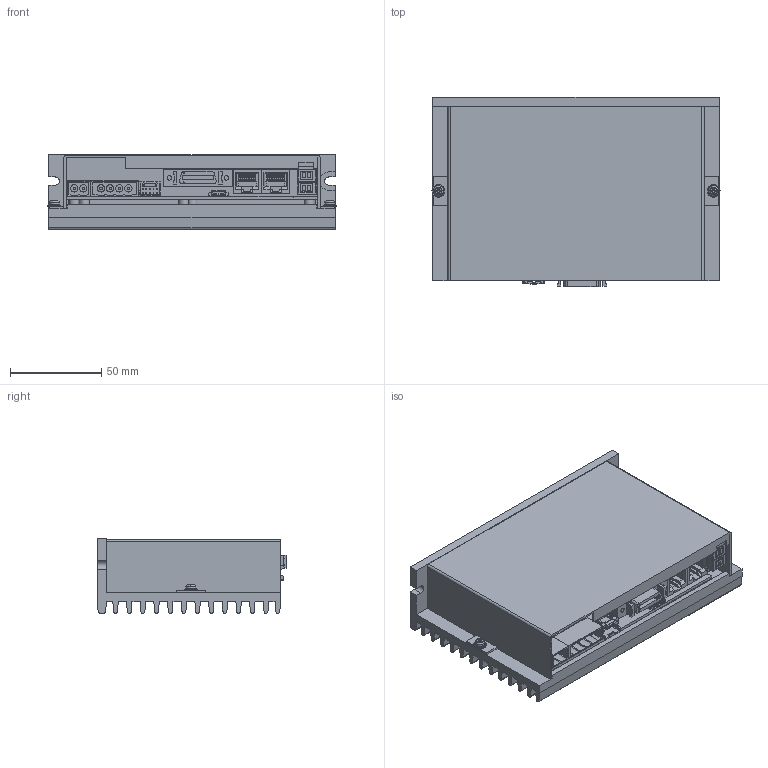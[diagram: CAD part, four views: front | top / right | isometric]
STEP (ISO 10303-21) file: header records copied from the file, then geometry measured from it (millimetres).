
FILE_DESCRIPTION (( 'STEP AP203' ), '1' );
FILE_NAME ('P1C-DR-086-01-R00.STEP', '2017-04-26T02:28:58', ( '' ), ( '' ), 'SwSTEP 2.0', 'SolidWorks 2013', '' );
FILE_SCHEMA (( 'CONFIG_CONTROL_DESIGN' ));
Length unit declared in the file: millimetre
Products named in the file (21): spring lock washer_ks_KS 1324 - M3; 5; 萄塭檜粽 瞪錳 鐘喀攪 86; plain washer normal grade a_iso_Washer ISO 7089 - 3; _X2_D30CD2B8_X0_96; 賅攪 醞啗 鐘喀攪 86; P1C-DR-086-01-R00; _X2_D30CD2B8_X0_94; 浚内歹 立加 目池磐; 12; 9; MOLEX_0678038020; EtherCAT PCB; 萄塭檜粽 瞪錳 鐘喀攪 б 86; 4; M1B-DR-086-01-R01; Part1_4; NetBase PCB; pan cross head_ks_KS 1023 PC- M3 x 6-N; 7; M1C-DR-086-02-R00
Assembly tree (31 placements, depth 3):
  P1C-DR-086-01-R00
    NetBase PCB
    M1C-DR-086-02-R00
    萄塭檜粽 瞪錳 鐘喀攪 86
    賅攪 醞啗 鐘喀攪 86
    浚内歹 立加 目池磐
    9
    EtherCAT PCB
    4
    7  x2
      Part1_4
    5  x2
    12  x2
      _X2_D30CD2B8_X0_96
      _X2_D30CD2B8_X0_94
    MOLEX_0678038020
    萄塭檜粽 瞪錳 鐘喀攪 б 86  x6
    M1B-DR-086-01-R01
    pan cross head_ks_KS 1023 PC- M3 x 6-N  x2
    spring lock washer_ks_KS 1324 - M3  x2
    plain washer normal grade a_iso_Washer ISO 7089 - 3  x2
Bounding box: 158 x 103.86 x 41 mm (x, y, z)
Volume: 200674.6 mm3; surface area: 164929.2 mm2
Topology: 31 solids, 32 shells, 2536 faces, 6893 edges, 4453 vertices
Faces by surface type: plane 1956, cylinder 462, bspline 48, cone 46, torus 20, sphere 4
Entity records: 68572 total; most frequent: CARTESIAN_POINT 13719, ORIENTED_EDGE 11242, DIRECTION 10256, EDGE_CURVE 5625, LINE 4642, VECTOR 4642, VERTEX_POINT 3639, AXIS2_PLACEMENT_3D 2807
